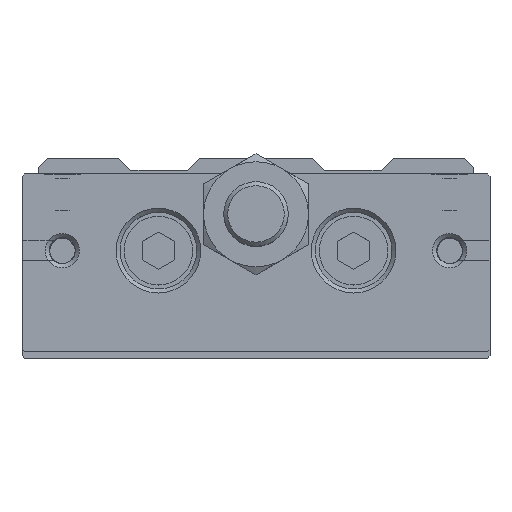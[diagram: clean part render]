
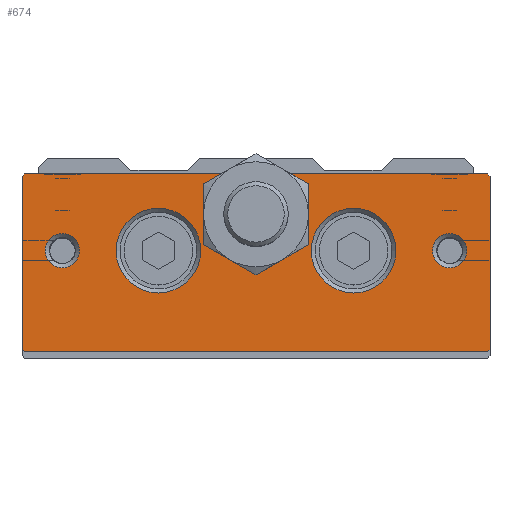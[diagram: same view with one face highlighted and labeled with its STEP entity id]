
A CAD part, top view. The second image highlights one B-rep face of the part: STEP entity #674.
In plain terms, the highlighted planar face has unit normal (0, 0, 1).
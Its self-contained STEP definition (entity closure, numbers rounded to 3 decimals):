
#455=CARTESIAN_POINT('',(-28.7,-13.,268.5));
#456=VERTEX_POINT('',#455);
#463=CARTESIAN_POINT('',(-29.,-12.7,268.5));
#464=VERTEX_POINT('',#463);
#465=CARTESIAN_POINT('',(-28.7,-13.,268.5));
#466=DIRECTION('',(-0.707,0.707,0.0));
#467=VECTOR('',#466,0.424);
#468=LINE('',#465,#467);
#469=EDGE_CURVE('',#456,#464,#468,.T.);
#486=CARTESIAN_POINT('',(-29.,8.7,268.5));
#487=VERTEX_POINT('',#486);
#488=CARTESIAN_POINT('',(-29.,8.7,268.5));
#489=DIRECTION('',(0.0,-1.0,0.0));
#490=VECTOR('',#489,21.4);
#491=LINE('',#488,#490);
#492=EDGE_CURVE('',#487,#464,#491,.T.);
#522=CARTESIAN_POINT('',(0.0,-13.,268.5));
#523=DIRECTION('',(0.0,0.0,1.0));
#524=DIRECTION('',(1.0,0.0,0.0));
#525=AXIS2_PLACEMENT_3D('',#522,#523,#524);
#526=PLANE('',#525);
#527=ORIENTED_EDGE('',*,*,#469,.F.);
#528=CARTESIAN_POINT('',(28.7,-13.,268.5));
#529=VERTEX_POINT('',#528);
#530=CARTESIAN_POINT('',(-28.7,-13.,268.5));
#531=DIRECTION('',(1.0,0.0,0.0));
#532=VECTOR('',#531,57.4);
#533=LINE('',#530,#532);
#534=EDGE_CURVE('',#456,#529,#533,.T.);
#535=ORIENTED_EDGE('',*,*,#534,.T.);
#536=CARTESIAN_POINT('',(29.,-12.7,268.5));
#537=VERTEX_POINT('',#536);
#538=CARTESIAN_POINT('',(29.,-12.7,268.5));
#539=DIRECTION('',(-0.707,-0.707,0.0));
#540=VECTOR('',#539,0.424);
#541=LINE('',#538,#540);
#542=EDGE_CURVE('',#537,#529,#541,.T.);
#543=ORIENTED_EDGE('',*,*,#542,.F.);
#544=CARTESIAN_POINT('',(29.,8.7,268.5));
#545=VERTEX_POINT('',#544);
#546=CARTESIAN_POINT('',(29.,-12.7,268.5));
#547=DIRECTION('',(0.0,1.0,0.0));
#548=VECTOR('',#547,21.4);
#549=LINE('',#546,#548);
#550=EDGE_CURVE('',#537,#545,#549,.T.);
#551=ORIENTED_EDGE('',*,*,#550,.T.);
#552=CARTESIAN_POINT('',(28.7,9.,268.5));
#553=VERTEX_POINT('',#552);
#554=CARTESIAN_POINT('',(28.7,9.,268.5));
#555=DIRECTION('',(0.707,-0.707,0.0));
#556=VECTOR('',#555,0.424);
#557=LINE('',#554,#556);
#558=EDGE_CURVE('',#553,#545,#557,.T.);
#559=ORIENTED_EDGE('',*,*,#558,.F.);
#560=CARTESIAN_POINT('',(4.153,9.,268.5));
#561=VERTEX_POINT('',#560);
#562=CARTESIAN_POINT('',(28.7,9.,268.5));
#563=DIRECTION('',(-1.0,0.0,0.0));
#564=VECTOR('',#563,24.547);
#565=LINE('',#562,#564);
#566=EDGE_CURVE('',#553,#561,#565,.T.);
#567=ORIENTED_EDGE('',*,*,#566,.T.);
#568=CARTESIAN_POINT('',(6.5,4.,268.5));
#569=VERTEX_POINT('',#568);
#570=CARTESIAN_POINT('',(0.0,4.,268.5));
#571=DIRECTION('',(0.0,0.0,1.0));
#572=DIRECTION('',(0.0,1.0,0.0));
#573=AXIS2_PLACEMENT_3D('',#570,#571,#572);
#574=CIRCLE('',#573,6.5);
#575=EDGE_CURVE('',#569,#561,#574,.T.);
#576=ORIENTED_EDGE('',*,*,#575,.F.);
#577=CARTESIAN_POINT('',(3.25,-1.629,268.5));
#578=VERTEX_POINT('',#577);
#579=CARTESIAN_POINT('',(0.0,4.,268.5));
#580=DIRECTION('',(0.0,0.0,1.0));
#581=DIRECTION('',(0.0,1.0,0.0));
#582=AXIS2_PLACEMENT_3D('',#579,#580,#581);
#583=CIRCLE('',#582,6.5);
#584=EDGE_CURVE('',#578,#569,#583,.T.);
#585=ORIENTED_EDGE('',*,*,#584,.F.);
#586=CARTESIAN_POINT('',(-3.25,-1.629,268.5));
#587=VERTEX_POINT('',#586);
#588=CARTESIAN_POINT('',(0.0,4.,268.5));
#589=DIRECTION('',(0.0,0.0,1.0));
#590=DIRECTION('',(0.0,1.0,0.0));
#591=AXIS2_PLACEMENT_3D('',#588,#589,#590);
#592=CIRCLE('',#591,6.5);
#593=EDGE_CURVE('',#587,#578,#592,.T.);
#594=ORIENTED_EDGE('',*,*,#593,.F.);
#595=CARTESIAN_POINT('',(-6.5,4.,268.5));
#596=VERTEX_POINT('',#595);
#597=CARTESIAN_POINT('',(0.0,4.,268.5));
#598=DIRECTION('',(0.0,0.0,1.0));
#599=DIRECTION('',(0.0,1.0,0.0));
#600=AXIS2_PLACEMENT_3D('',#597,#598,#599);
#601=CIRCLE('',#600,6.5);
#602=EDGE_CURVE('',#596,#587,#601,.T.);
#603=ORIENTED_EDGE('',*,*,#602,.F.);
#604=CARTESIAN_POINT('',(-4.153,9.,268.5));
#605=VERTEX_POINT('',#604);
#606=CARTESIAN_POINT('',(0.0,4.,268.5));
#607=DIRECTION('',(0.0,0.0,1.0));
#608=DIRECTION('',(0.0,1.0,0.0));
#609=AXIS2_PLACEMENT_3D('',#606,#607,#608);
#610=CIRCLE('',#609,6.5);
#611=EDGE_CURVE('',#605,#596,#610,.T.);
#612=ORIENTED_EDGE('',*,*,#611,.F.);
#613=CARTESIAN_POINT('',(-28.7,9.,268.5));
#614=VERTEX_POINT('',#613);
#615=CARTESIAN_POINT('',(-4.153,9.,268.5));
#616=DIRECTION('',(-1.0,0.0,0.0));
#617=VECTOR('',#616,24.547);
#618=LINE('',#615,#617);
#619=EDGE_CURVE('',#605,#614,#618,.T.);
#620=ORIENTED_EDGE('',*,*,#619,.T.);
#621=CARTESIAN_POINT('',(-29.,8.7,268.5));
#622=DIRECTION('',(0.707,0.707,0.0));
#623=VECTOR('',#622,0.424);
#624=LINE('',#621,#623);
#625=EDGE_CURVE('',#487,#614,#624,.T.);
#626=ORIENTED_EDGE('',*,*,#625,.F.);
#627=ORIENTED_EDGE('',*,*,#492,.T.);
#628=EDGE_LOOP('',(#527,#535,#543,#551,#559,#567,#576,#585,#594,#603,#612,#620,#626,#627));
#629=FACE_OUTER_BOUND('',#628,.T.);
#630=CARTESIAN_POINT('',(-21.879,-0.5,268.5));
#631=VERTEX_POINT('',#630);
#632=CARTESIAN_POINT('',(-24.,-0.5,268.5));
#633=DIRECTION('',(0.0,0.0,1.0));
#634=DIRECTION('',(-1.0,0.0,0.0));
#635=AXIS2_PLACEMENT_3D('',#632,#633,#634);
#636=CIRCLE('',#635,2.121);
#637=EDGE_CURVE('',#631,#631,#636,.T.);
#638=ORIENTED_EDGE('',*,*,#637,.F.);
#639=EDGE_LOOP('',(#638));
#640=FACE_BOUND('',#639,.T.);
#641=CARTESIAN_POINT('',(26.121,-0.5,268.5));
#642=VERTEX_POINT('',#641);
#643=CARTESIAN_POINT('',(24.,-0.5,268.5));
#644=DIRECTION('',(0.0,0.0,1.0));
#645=DIRECTION('',(-1.0,0.0,0.0));
#646=AXIS2_PLACEMENT_3D('',#643,#644,#645);
#647=CIRCLE('',#646,2.121);
#648=EDGE_CURVE('',#642,#642,#647,.T.);
#649=ORIENTED_EDGE('',*,*,#648,.F.);
#650=EDGE_LOOP('',(#649));
#651=FACE_BOUND('',#650,.T.);
#652=CARTESIAN_POINT('',(-6.85,-0.5,268.5));
#653=VERTEX_POINT('',#652);
#654=CARTESIAN_POINT('',(-12.1,-0.5,268.5));
#655=DIRECTION('',(0.0,0.0,1.0));
#656=DIRECTION('',(-1.0,0.0,0.0));
#657=AXIS2_PLACEMENT_3D('',#654,#655,#656);
#658=CIRCLE('',#657,5.25);
#659=EDGE_CURVE('',#653,#653,#658,.T.);
#660=ORIENTED_EDGE('',*,*,#659,.F.);
#661=EDGE_LOOP('',(#660));
#662=FACE_BOUND('',#661,.T.);
#663=CARTESIAN_POINT('',(17.35,-0.5,268.5));
#664=VERTEX_POINT('',#663);
#665=CARTESIAN_POINT('',(12.1,-0.5,268.5));
#666=DIRECTION('',(0.0,0.0,1.0));
#667=DIRECTION('',(-1.0,0.0,0.0));
#668=AXIS2_PLACEMENT_3D('',#665,#666,#667);
#669=CIRCLE('',#668,5.25);
#670=EDGE_CURVE('',#664,#664,#669,.T.);
#671=ORIENTED_EDGE('',*,*,#670,.F.);
#672=EDGE_LOOP('',(#671));
#673=FACE_BOUND('',#672,.T.);
#674=ADVANCED_FACE('',(#629,#640,#651,#662,#673),#526,.T.);
